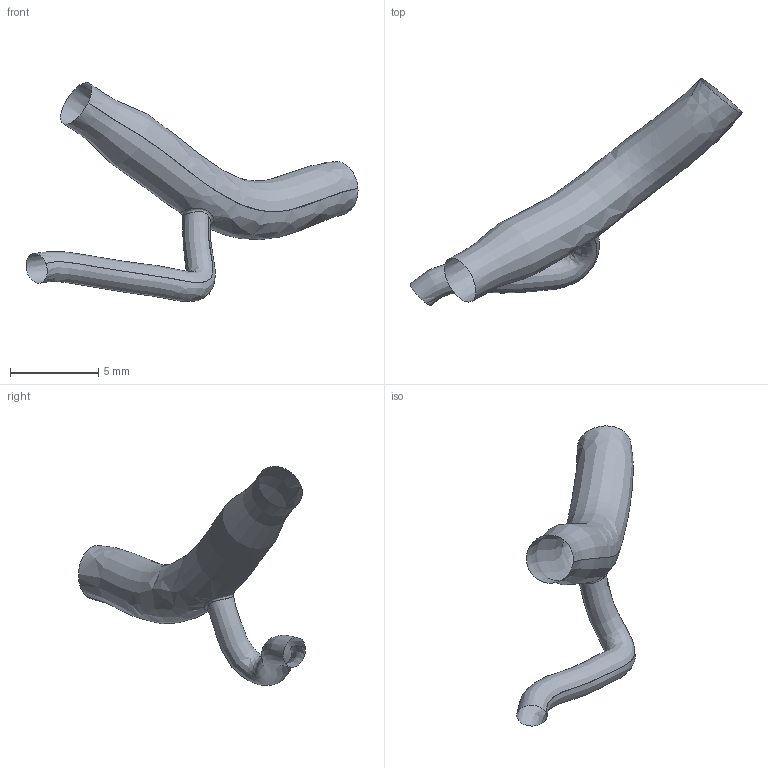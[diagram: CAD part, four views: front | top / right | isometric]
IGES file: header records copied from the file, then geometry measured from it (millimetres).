
Global section: file name: C:\Documents and Settings\Administrator\Desktop\FDA Bifurcation win\RawData_for_IGES\HRCA_Data\20010719.155526\IGES\20010719.155526.RM2.BIFUR.ES.igs; native system: Rhinoceros ( May 19 2006 ); preprocessor: Trout Lake IGES 012 May 19 2006; date: 100728.211812; units: centimetre
Bounding box: 18.86 x 12.9 x 12.45 mm (x, y, z)
Surface area: 280.4 mm2 (no closed solid volume)
Topology: 0 solids, 0 shells, 3 faces, 28 edges, 23 vertices
Faces by surface type: bspline 3
